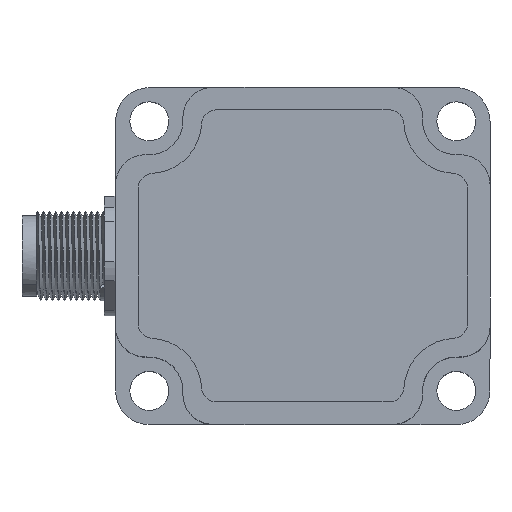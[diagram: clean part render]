
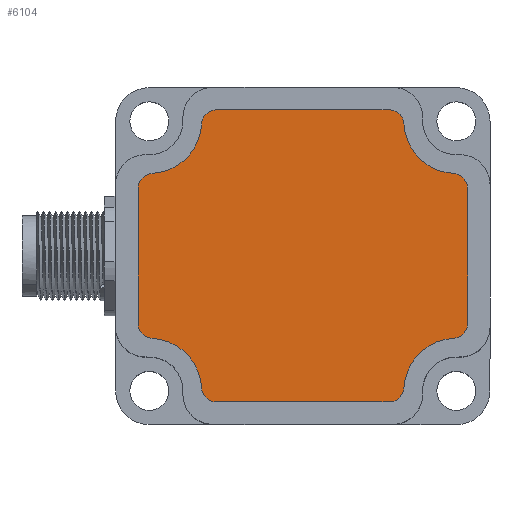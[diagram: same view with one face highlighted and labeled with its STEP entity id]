
A CAD part, top view. The second image highlights one B-rep face of the part: STEP entity #6104.
In plain terms, the highlighted planar face has unit normal (0, 0, 1).
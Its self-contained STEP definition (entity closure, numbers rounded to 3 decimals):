
#30 = DIRECTION ( 'NONE',  ( 0., 0., 1. ) ) ;
#65 = ORIENTED_EDGE ( 'NONE', *, *, #1088, .T. ) ;
#269 = CARTESIAN_POINT ( 'NONE',  ( -18.97, -8.378, 60.8 ) ) ;
#293 = AXIS2_PLACEMENT_3D ( 'NONE', #4525, #7471, #4495 ) ;
#317 = AXIS2_PLACEMENT_3D ( 'NONE', #2518, #6361, #1808 ) ;
#687 = CIRCLE ( 'NONE', #1594, 2. ) ;
#712 = CARTESIAN_POINT ( 'NONE',  ( -10.481, -16.975, 60.8 ) ) ;
#767 = CARTESIAN_POINT ( 'NONE',  ( 25.03, 9.65, 60.8 ) ) ;
#786 = EDGE_CURVE ( 'NONE', #3356, #3725, #9719, .T. ) ;
#1050 = CARTESIAN_POINT ( 'NONE',  ( 14.544, 18.136, 60.8 ) ) ;
#1088 = EDGE_CURVE ( 'NONE', #8428, #4103, #5114, .T. ) ;
#1095 = CARTESIAN_POINT ( 'NONE',  ( 25.03, -8.378, 60.8 ) ) ;
#1203 = CARTESIAN_POINT ( 'NONE',  ( 14.544, -16.864, 60.8 ) ) ;
#1225 = AXIS2_PLACEMENT_3D ( 'NONE', #4192, #7165, #9452 ) ;
#1304 = CIRCLE ( 'NONE', #6829, 2. ) ;
#1332 = CIRCLE ( 'NONE', #1225, 2. ) ;
#1414 = ORIENTED_EDGE ( 'NONE', *, *, #7865, .T. ) ;
#1449 = VECTOR ( 'NONE', #3760, 1000. ) ;
#1573 = EDGE_CURVE ( 'NONE', #5705, #3356, #1332, .T. ) ;
#1594 = AXIS2_PLACEMENT_3D ( 'NONE', #3666, #8948, #3702 ) ;
#1605 = DIRECTION ( 'NONE',  ( 1., 0., 0. ) ) ;
#1608 = CARTESIAN_POINT ( 'NONE',  ( -18.97, 9.65, 60.8 ) ) ;
#1696 = VERTEX_POINT ( 'NONE', #5103 ) ;
#1775 = DIRECTION ( 'NONE',  ( 0., 0., 1. ) ) ;
#1804 = VERTEX_POINT ( 'NONE', #4516 ) ;
#1808 = DIRECTION ( 'NONE',  ( 1., 0., 0. ) ) ;
#1930 = DIRECTION ( 'NONE',  ( 0., 0., 1. ) ) ;
#2078 = AXIS2_PLACEMENT_3D ( 'NONE', #1203, #3470, #4177 ) ;
#2101 = AXIS2_PLACEMENT_3D ( 'NONE', #3786, #30, #4587 ) ;
#2142 = FACE_OUTER_BOUND ( 'NONE', #6919, .T. ) ;
#2191 = LINE ( 'NONE', #2193, #4539 ) ;
#2193 = CARTESIAN_POINT ( 'NONE',  ( 25.03, 9.65, 60.8 ) ) ;
#2315 = ORIENTED_EDGE ( 'NONE', *, *, #6658, .T. ) ;
#2461 = ORIENTED_EDGE ( 'NONE', *, *, #3488, .T. ) ;
#2518 = CARTESIAN_POINT ( 'NONE',  ( 23.53, 18.636, 60.8 ) ) ;
#2524 = CARTESIAN_POINT ( 'NONE',  ( -18.97, 9.65, 60.8 ) ) ;
#2540 = CIRCLE ( 'NONE', #7461, 2. ) ;
#2800 = CIRCLE ( 'NONE', #293, 2. ) ;
#2828 = ORIENTED_EDGE ( 'NONE', *, *, #8329, .T. ) ;
#2870 = CARTESIAN_POINT ( 'NONE',  ( -17.47, -17.364, 60.8 ) ) ;
#2907 = ORIENTED_EDGE ( 'NONE', *, *, #6774, .T. ) ;
#3004 = EDGE_CURVE ( 'NONE', #3081, #4915, #6553, .T. ) ;
#3018 = ORIENTED_EDGE ( 'NONE', *, *, #786, .T. ) ;
#3081 = VERTEX_POINT ( 'NONE', #8351 ) ;
#3102 = DIRECTION ( 'NONE',  ( 0., 0., -1. ) ) ;
#3227 = VERTEX_POINT ( 'NONE', #269 ) ;
#3356 = VERTEX_POINT ( 'NONE', #5110 ) ;
#3414 = DIRECTION ( 'NONE',  ( -1., 0., 0. ) ) ;
#3470 = DIRECTION ( 'NONE',  ( 0., 0., 1. ) ) ;
#3488 = EDGE_CURVE ( 'NONE', #8966, #7767, #2191, .T. ) ;
#3666 = CARTESIAN_POINT ( 'NONE',  ( -8.484, 18.136, 60.8 ) ) ;
#3670 = VECTOR ( 'NONE', #8471, 1000. ) ;
#3702 = DIRECTION ( 'NONE',  ( -1., 0., 0. ) ) ;
#3706 = EDGE_CURVE ( 'NONE', #4915, #8966, #2540, .T. ) ;
#3725 = VERTEX_POINT ( 'NONE', #7793 ) ;
#3760 = DIRECTION ( 'NONE',  ( -1., 0., 0. ) ) ;
#3786 = CARTESIAN_POINT ( 'NONE',  ( 23.03, 9.65, 60.8 ) ) ;
#4093 = DIRECTION ( 'NONE',  ( -1., 0., 0. ) ) ;
#4103 = VERTEX_POINT ( 'NONE', #4428 ) ;
#4127 = CARTESIAN_POINT ( 'NONE',  ( 23.03, -8.378, 60.8 ) ) ;
#4147 = CARTESIAN_POINT ( 'NONE',  ( -8.484, -18.864, 60.8 ) ) ;
#4164 = CARTESIAN_POINT ( 'NONE',  ( -16.97, -8.378, 60.8 ) ) ;
#4177 = DIRECTION ( 'NONE',  ( -1., 0., 0. ) ) ;
#4183 = ORIENTED_EDGE ( 'NONE', *, *, #3706, .T. ) ;
#4187 = EDGE_CURVE ( 'NONE', #7257, #4599, #7604, .T. ) ;
#4192 = CARTESIAN_POINT ( 'NONE',  ( -8.484, -16.864, 60.8 ) ) ;
#4370 = CARTESIAN_POINT ( 'NONE',  ( -8.484, 20.136, 60.8 ) ) ;
#4428 = CARTESIAN_POINT ( 'NONE',  ( -17.081, 11.647, 60.8 ) ) ;
#4495 = DIRECTION ( 'NONE',  ( 1., 0., 0. ) ) ;
#4516 = CARTESIAN_POINT ( 'NONE',  ( 16.541, 18.247, 60.8 ) ) ;
#4525 = CARTESIAN_POINT ( 'NONE',  ( -16.97, 9.65, 60.8 ) ) ;
#4539 = VECTOR ( 'NONE', #5217, 1000. ) ;
#4587 = DIRECTION ( 'NONE',  ( 1., 0., 0. ) ) ;
#4599 = VERTEX_POINT ( 'NONE', #4370 ) ;
#4686 = ORIENTED_EDGE ( 'NONE', *, *, #9776, .T. ) ;
#4813 = AXIS2_PLACEMENT_3D ( 'NONE', #2870, #5969, #5932 ) ;
#4830 = DIRECTION ( 'NONE',  ( 1., 0., 0. ) ) ;
#4915 = VERTEX_POINT ( 'NONE', #7858 ) ;
#5103 = CARTESIAN_POINT ( 'NONE',  ( 23.141, 11.647, 60.8 ) ) ;
#5110 = CARTESIAN_POINT ( 'NONE',  ( -8.484, -18.864, 60.8 ) ) ;
#5114 = CIRCLE ( 'NONE', #7748, 7. ) ;
#5217 = DIRECTION ( 'NONE',  ( 0., 1., 0. ) ) ;
#5252 = CARTESIAN_POINT ( 'NONE',  ( -17.081, -10.374, 60.8 ) ) ;
#5548 = CIRCLE ( 'NONE', #2101, 2. ) ;
#5608 = DIRECTION ( 'NONE',  ( 1., 0., 0. ) ) ;
#5705 = VERTEX_POINT ( 'NONE', #712 ) ;
#5925 = VERTEX_POINT ( 'NONE', #5252 ) ;
#5932 = DIRECTION ( 'NONE',  ( 1., 0., 0. ) ) ;
#5969 = DIRECTION ( 'NONE',  ( 0., 0., -1. ) ) ;
#6066 = ORIENTED_EDGE ( 'NONE', *, *, #7686, .T. ) ;
#6104 = ADVANCED_FACE ( 'NONE', ( #2142 ), #7158, .F. ) ;
#6164 = CARTESIAN_POINT ( 'NONE',  ( -17.47, 18.636, 60.8 ) ) ;
#6340 = DIRECTION ( 'NONE',  ( 0., 0., 1. ) ) ;
#6361 = DIRECTION ( 'NONE',  ( 0., 0., -1. ) ) ;
#6553 = CIRCLE ( 'NONE', #6702, 7. ) ;
#6587 = ORIENTED_EDGE ( 'NONE', *, *, #3004, .T. ) ;
#6647 = EDGE_CURVE ( 'NONE', #1696, #1804, #9437, .T. ) ;
#6658 = EDGE_CURVE ( 'NONE', #1804, #7257, #1304, .T. ) ;
#6702 = AXIS2_PLACEMENT_3D ( 'NONE', #6755, #8945, #9048 ) ;
#6755 = CARTESIAN_POINT ( 'NONE',  ( 23.53, -17.364, 60.8 ) ) ;
#6774 = EDGE_CURVE ( 'NONE', #3725, #3081, #8497, .T. ) ;
#6780 = VECTOR ( 'NONE', #9376, 1000. ) ;
#6829 = AXIS2_PLACEMENT_3D ( 'NONE', #1050, #1775, #5608 ) ;
#6912 = EDGE_CURVE ( 'NONE', #5925, #5705, #7092, .T. ) ;
#6919 = EDGE_LOOP ( 'NONE', ( #2907, #6587, #4183, #2461, #6066, #6973, #2315, #9730, #2828, #65, #4686, #1414, #8352, #8089, #7987, #3018 ) ) ;
#6973 = ORIENTED_EDGE ( 'NONE', *, *, #6647, .T. ) ;
#7092 = CIRCLE ( 'NONE', #4813, 7. ) ;
#7158 = PLANE ( 'NONE',  #9594 ) ;
#7165 = DIRECTION ( 'NONE',  ( 0., 0., 1. ) ) ;
#7223 = DIRECTION ( 'NONE',  ( 0., 0., -1. ) ) ;
#7257 = VERTEX_POINT ( 'NONE', #9265 ) ;
#7314 = CIRCLE ( 'NONE', #8405, 2. ) ;
#7337 = EDGE_CURVE ( 'NONE', #3227, #5925, #7314, .T. ) ;
#7461 = AXIS2_PLACEMENT_3D ( 'NONE', #4127, #6340, #4093 ) ;
#7471 = DIRECTION ( 'NONE',  ( 0., 0., 1. ) ) ;
#7604 = LINE ( 'NONE', #8942, #1449 ) ;
#7681 = CARTESIAN_POINT ( 'NONE',  ( -10.481, 18.247, 60.8 ) ) ;
#7686 = EDGE_CURVE ( 'NONE', #7767, #1696, #5548, .T. ) ;
#7748 = AXIS2_PLACEMENT_3D ( 'NONE', #6164, #3102, #1605 ) ;
#7767 = VERTEX_POINT ( 'NONE', #767 ) ;
#7793 = CARTESIAN_POINT ( 'NONE',  ( 14.544, -18.864, 60.8 ) ) ;
#7858 = CARTESIAN_POINT ( 'NONE',  ( 23.141, -10.374, 60.8 ) ) ;
#7865 = EDGE_CURVE ( 'NONE', #8463, #3227, #7899, .T. ) ;
#7882 = CARTESIAN_POINT ( 'NONE',  ( 14.544, -16.864, 60.8 ) ) ;
#7899 = LINE ( 'NONE', #2524, #3670 ) ;
#7987 = ORIENTED_EDGE ( 'NONE', *, *, #1573, .T. ) ;
#8089 = ORIENTED_EDGE ( 'NONE', *, *, #6912, .T. ) ;
#8329 = EDGE_CURVE ( 'NONE', #4599, #8428, #687, .T. ) ;
#8351 = CARTESIAN_POINT ( 'NONE',  ( 16.541, -16.975, 60.8 ) ) ;
#8352 = ORIENTED_EDGE ( 'NONE', *, *, #7337, .T. ) ;
#8405 = AXIS2_PLACEMENT_3D ( 'NONE', #4164, #1930, #4830 ) ;
#8428 = VERTEX_POINT ( 'NONE', #7681 ) ;
#8463 = VERTEX_POINT ( 'NONE', #1608 ) ;
#8471 = DIRECTION ( 'NONE',  ( 0., -1., 0. ) ) ;
#8497 = CIRCLE ( 'NONE', #2078, 2. ) ;
#8942 = CARTESIAN_POINT ( 'NONE',  ( -8.484, 20.136, 60.8 ) ) ;
#8945 = DIRECTION ( 'NONE',  ( 0., 0., -1. ) ) ;
#8948 = DIRECTION ( 'NONE',  ( 0., 0., 1. ) ) ;
#8966 = VERTEX_POINT ( 'NONE', #1095 ) ;
#9048 = DIRECTION ( 'NONE',  ( 1., 0., 0. ) ) ;
#9265 = CARTESIAN_POINT ( 'NONE',  ( 14.544, 20.136, 60.8 ) ) ;
#9376 = DIRECTION ( 'NONE',  ( 1., 0., 0. ) ) ;
#9437 = CIRCLE ( 'NONE', #317, 7. ) ;
#9452 = DIRECTION ( 'NONE',  ( -1., 0., 0. ) ) ;
#9594 = AXIS2_PLACEMENT_3D ( 'NONE', #7882, #7223, #3414 ) ;
#9719 = LINE ( 'NONE', #4147, #6780 ) ;
#9730 = ORIENTED_EDGE ( 'NONE', *, *, #4187, .T. ) ;
#9776 = EDGE_CURVE ( 'NONE', #4103, #8463, #2800, .T. ) ;
